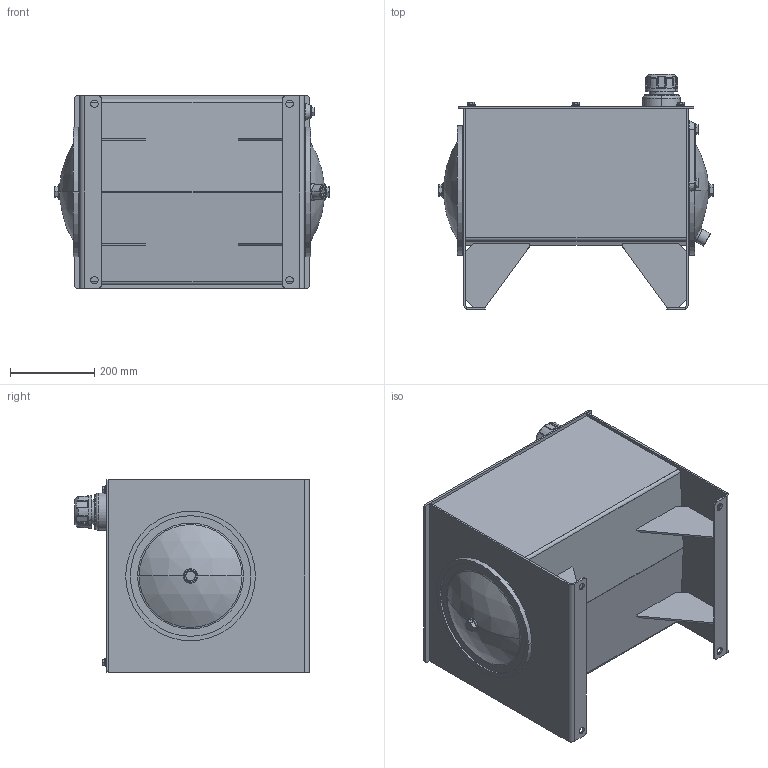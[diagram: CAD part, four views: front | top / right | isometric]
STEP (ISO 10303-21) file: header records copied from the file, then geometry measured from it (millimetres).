
FILE_DESCRIPTION (( 'STEP AP203' ), '1' );
FILE_NAME ('RJIC010-RT.STEP', '2015-01-08T15:47:45', ( '' ), ( '' ), 'SwSTEP 2.0', 'SolidWorks 2014', '' );
FILE_SCHEMA (( 'CONFIG_CONTROL_DESIGN' ));
Length unit declared in the file: inch
Products named in the file (1): RJIC010-RT
Bounding box: 654.59 x 558.16 x 457.2 mm (x, y, z)
Volume: 6917598.7 mm3; surface area: 3569770.3 mm2
Topology: 38 solids, 38 shells, 939 faces, 2169 edges, 1321 vertices
Faces by surface type: plane 336, cylinder 328, torus 96, cone 96, bspline 51, sphere 32
Entity records: 29670 total; most frequent: CARTESIAN_POINT 7884, DIRECTION 4804, ORIENTED_EDGE 4314, EDGE_CURVE 2157, AXIS2_PLACEMENT_3D 1911, VERTEX_POINT 1321, EDGE_LOOP 1084, CIRCLE 1022
